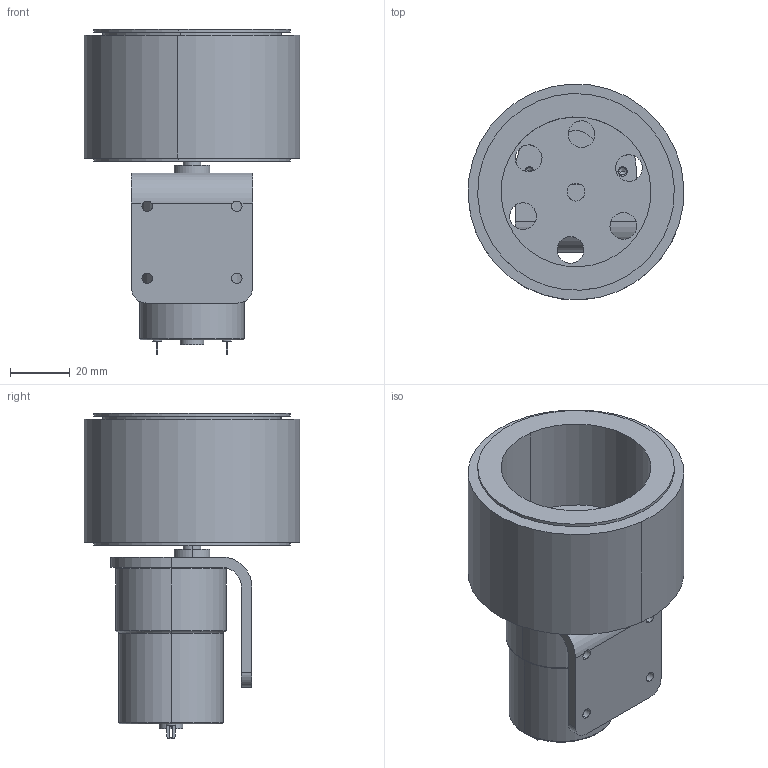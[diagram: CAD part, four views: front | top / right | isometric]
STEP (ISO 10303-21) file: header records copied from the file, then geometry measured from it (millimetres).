
FILE_DESCRIPTION (( 'STEP AP203' ), '1' );
FILE_NAME ('jsumo + pololu motors.STEP', '2025-10-13T10:19:41', ( '' ), ( '' ), 'SwSTEP 2.0', 'SolidWorks 2023', '' );
FILE_SCHEMA (( 'CONFIG_CONTROL_DESIGN' ));
Length unit declared in the file: millimetre
Products named in the file (6): pololu motors; jsumo wheel rim; jsumo wheel; JGB37-520 12 v metal geared motor bracket; jsumo + pololu motors; jsumo tyre
Assembly tree (5 placements, depth 3):
  jsumo + pololu motors
    pololu motors
    JGB37-520 12 v metal geared motor bracket
    jsumo wheel
      jsumo wheel rim
      jsumo tyre
Bounding box: 71.94 x 71.94 x 108.65 mm (x, y, z)
Volume: 169287.9 mm3; surface area: 58291.5 mm2
Topology: 4 solids, 4 shells, 184 faces, 464 edges, 285 vertices
Faces by surface type: cylinder 95, plane 41, cone 36, torus 8, bspline 4
Entity records: 6330 total; most frequent: CARTESIAN_POINT 1150, DIRECTION 1024, ORIENTED_EDGE 892, EDGE_CURVE 446, AXIS2_PLACEMENT_3D 411, VERTEX_POINT 285, EDGE_LOOP 243, CIRCLE 222
